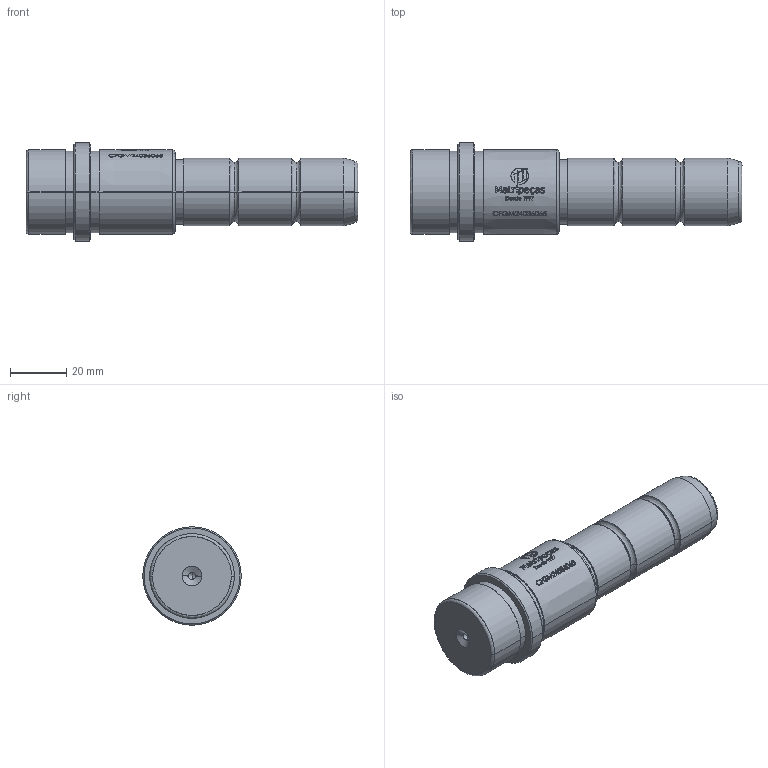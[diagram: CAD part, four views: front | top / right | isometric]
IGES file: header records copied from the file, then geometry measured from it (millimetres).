
Start section: SolidWorks IGES file using analytic representation for surfaces
Global section: file name: D:\1.TRIVECTOR\Clientes\MATRIPEÇAS\PEÇAS_CATALOGO_SITE\5.CFGM - COLUNA PLACA FLUTUANTE GUIADA E31 (CATÁLOGO)\CFGM24036065.IGS; native system: SolidWorks 2024; preprocessor: SolidWorks 2024; author: Angela Maschio; date: 260908.162207; units: millimetre
Bounding box: 118 x 35 x 35 mm (x, y, z)
Surface area: 12205.6 mm2 (no closed solid volume)
Topology: 0 solids, 0 shells, 516 faces, 5718 edges, 5714 vertices
Faces by surface type: bspline 431, revolution 85
